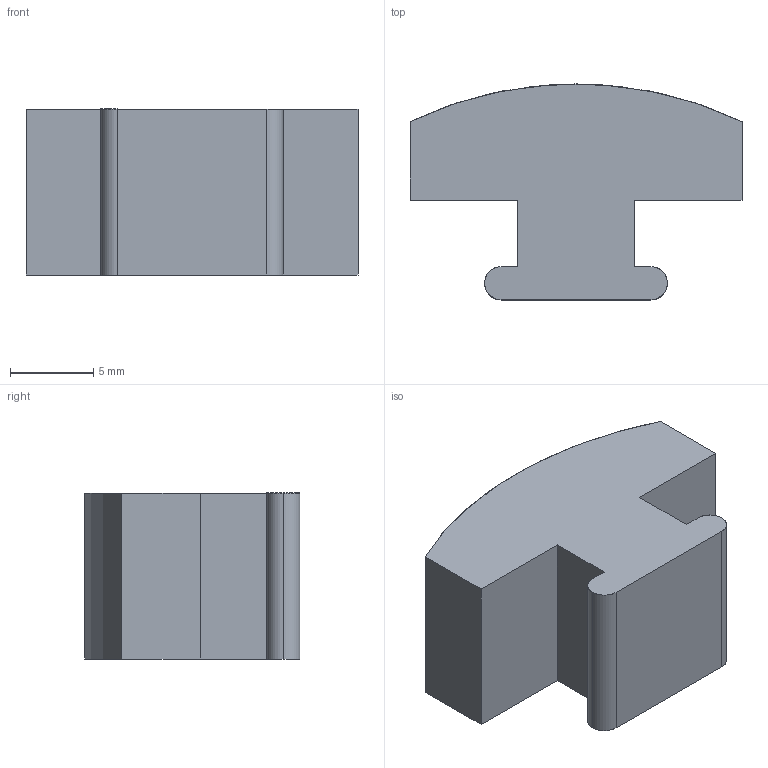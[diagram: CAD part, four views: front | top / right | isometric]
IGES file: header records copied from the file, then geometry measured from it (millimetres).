
Start section: SolidWorks IGES file using analytic representation for surfaces
Global section: file name: C:\Documents and Settings\URETIM3\Desktop\yeni katalog tolgay düzenli\E kataloðu\T100 PROFÝL ALPOLEN 1000\206 OT1 002.IGS; native system: SolidWorks 2006 by SolidWorks Corporation; preprocessor: SolidWorks 2006 by SolidWorks Corporation; author: URETIM3; date: 060912.161825; units: millimetre
Bounding box: 20 x 13 x 10 mm (x, y, z)
Surface area: 1033.3 mm2 (no closed solid volume)
Topology: 0 solids, 0 shells, 15 faces, 150 edges, 150 vertices
Faces by surface type: bspline 11, revolution 4
